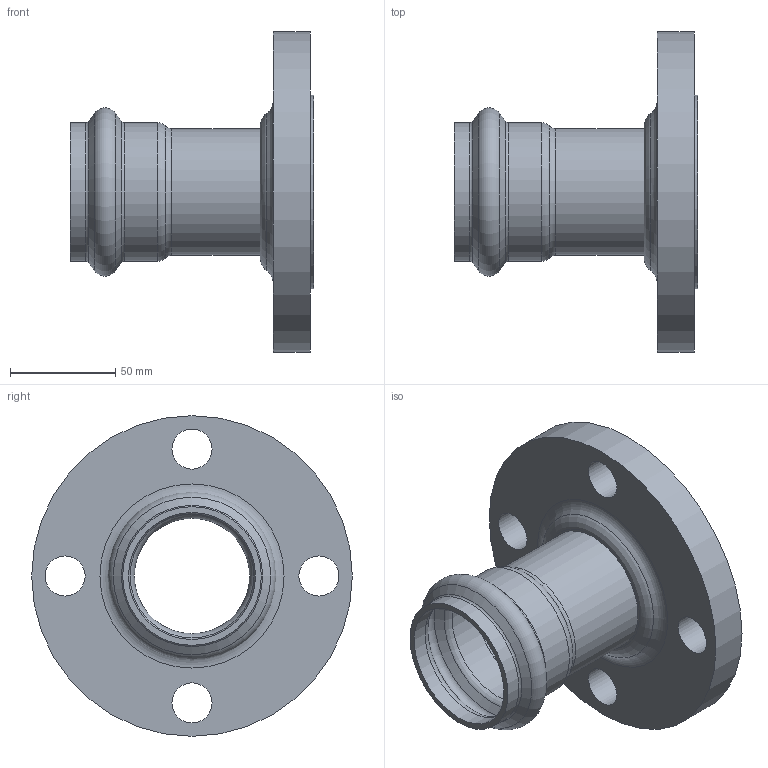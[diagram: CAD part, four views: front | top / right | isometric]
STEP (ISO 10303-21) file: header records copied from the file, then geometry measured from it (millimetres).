
FILE_DESCRIPTION(/* description */ ('VIC VAN STONE FLANGE ADAPTER STYLE P565','CAx-IF Rec.Pracs.---Representation and Presentation of Product Manufacturing Information (PMI)---4.0---2014-10-13'),/* implementation_level */ '2;1');
FILE_NAME(/* name */ 'C:\Users\Vjadhav\AppData\Roaming\Autodesk\ApplicationPlugins\Back Up\Victaulic_SS-Vic-Press-TP 304_Flange Adapter Van Stone_CL 150 RF_Style P565 (VPxFLG)\Victaulic_SS-Vic-Press-TP 304_Flange Adapter Van Stone_CL 150 RF_Style P565 (VPxFLG)_2 (50).stp',/* time_stamp */ '2020-08-12T17:23:10+06:00',/* author */ ('cgray'),/* organization */ ('Victaulic'),/* preprocessor_version */ 'ST-DEVELOPER v17.2',/* originating_system */ 'Autodesk Inventor 2019',/* authorisation */ '');
FILE_SCHEMA (('AP242_MANAGED_MODEL_BASED_3D_ENGINEERING_MIM_LF { 1 0 10303 442 1 1 4 }'));
Length unit declared in the file: inch
Products named in the file (1): P565-02.0
Bounding box: 115.57 x 152.4 x 152.4 mm (x, y, z)
Volume: 330554.6 mm3; surface area: 85335.5 mm2
Topology: 1 solids, 1 shells, 33 faces, 114 edges, 86 vertices
Faces by surface type: cylinder 12, torus 12, plane 5, cone 4
Full cylindrical faces by diameter (mm): 19.05 x4, 54.788 x1, 60.325 x3, 65.862 x2, 91.948 x1, 152.4 x1
Entity records: 1531 total; most frequent: DIRECTION 306, CARTESIAN_POINT 251, ORIENTED_EDGE 228, AXIS2_PLACEMENT_3D 145, EDGE_CURVE 114, CIRCLE 98, VERTEX_POINT 86, EDGE_LOOP 46
